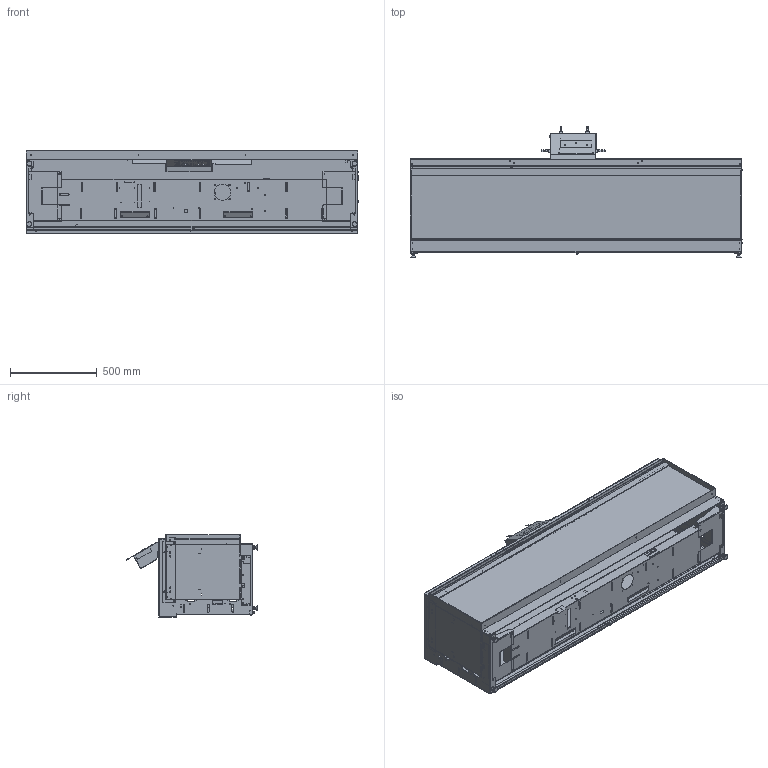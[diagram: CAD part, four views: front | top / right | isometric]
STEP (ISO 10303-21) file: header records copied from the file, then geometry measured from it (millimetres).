
FILE_DESCRIPTION (( 'STEP AP203' ), '1' );
FILE_NAME ('E-ONE 190 F.STEP', '2023-09-14T07:26:07', ( '' ), ( '' ), 'SwSTEP 2.0', 'SolidWorks 2020', '' );
FILE_SCHEMA (( 'CONFIG_CONTROL_DESIGN' ));
Products named in the file (1): E-ONE 190 F
Bounding box: 1911 x 758.26 x 477.1 mm (x, y, z)
Surface area: 8868859.3 mm2 (no closed solid volume)
Topology: 0 solids, 448 shells, 1059 faces, 7431 edges, 6534 vertices
Faces by surface type: plane 614, cylinder 300, cone 85, torus 34, bspline 20, sphere 6
Entity records: 73197 total; most frequent: CARTESIAN_POINT 17561, DIRECTION 11913, ORIENTED_EDGE 8456, EDGE_CURVE 7423, VERTEX_POINT 6534, LINE 4597, VECTOR 4597, AXIS2_PLACEMENT_3D 3658
